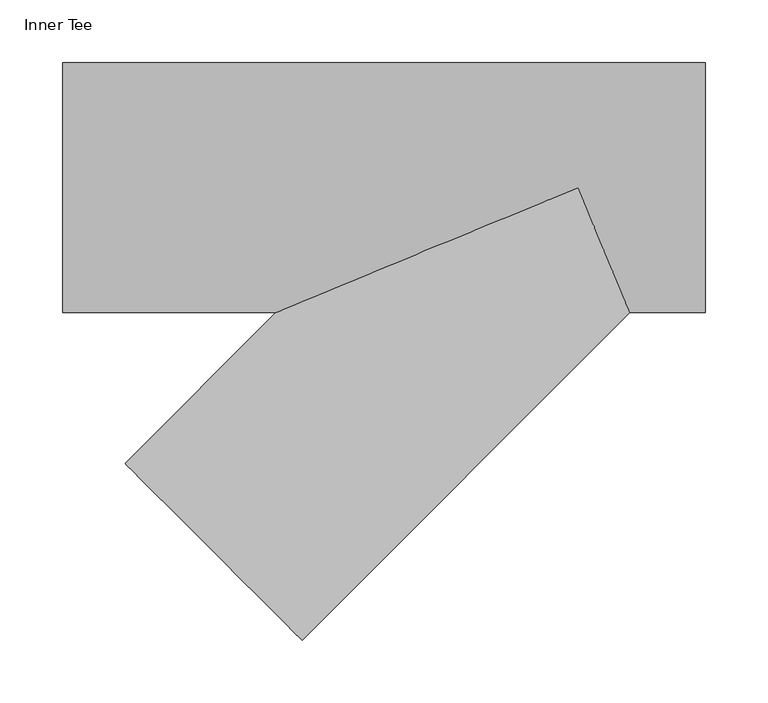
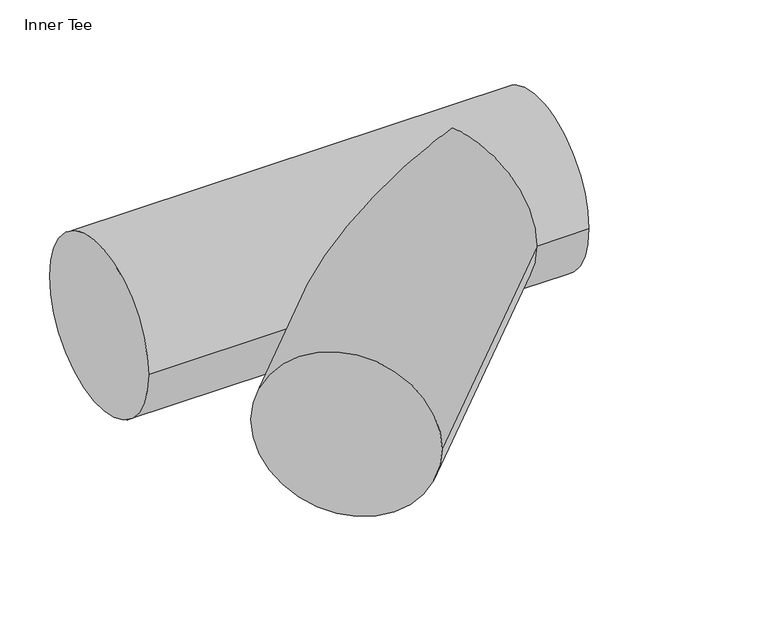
"""IFC4 building model written with IfcOpenShell, lengths in millimetres: pipe fitting geometry, CADS_Jeremias_InnerTee : Inner Tee."""

from ifc_helpers import new_model, si_unit, frame, origin, place, context, project, spatial, circle_curve, ellipse_curve, source, transform, mapped, element, save
from ifc_brep_helpers import plane_surface, cylinder_surface, advanced_brep


def inner_tee_3f265fad(model_context):
    return source(origin(), model_context, "Body", "AdvancedBrep", [
        advanced_brep(
        [(-411.7766953, -100.0, 0.0), (-411.7766953, 100.0, 0.0), (101.7766953, -100.0, 0.0), (101.7766953, 100.0, 0.0), (-241.4213562, -100.0, 0.0), (0.0, 0.0, 100.0), (41.4213562, -100.0, 0.0), (0.0, 0.0, -100.0), (-361.8807717, -220.4594155, 0.0), (-220.4594155, -361.8807717, 0.0)],
        [
            (0, 1, circle_curve(frame((-411.7766953, 0.0, 0.0), z_axis=(-1.0, 0.0, 0.0), x_axis=(0.0, 1.0, 0.0)), 100.0)),
            (1, 0, circle_curve(frame((-411.7766953, 0.0, 0.0), z_axis=(-1.0, 0.0, 0.0), x_axis=(0.0, 1.0, 0.0)), 100.0)),
            (2, 3, circle_curve(frame((101.7766953, 0.0, 0.0), z_axis=(1.0, 0.0, 0.0), x_axis=(0.0, 1.0, 0.0)), 100.0)),
            (3, 2, circle_curve(frame((101.7766953, 0.0, 0.0), z_axis=(1.0, 0.0, 0.0), x_axis=(0.0, 1.0, 0.0)), 100.0)),
            (0, 4),
            (4, 5, ellipse_curve(frame((0.0, 0.0, 0.0), z_axis=(-0.3826834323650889, 0.923879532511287, 0.0), x_axis=(-0.9238795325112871, -0.38268343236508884, 0.0)), 261.312593, 100.0)),
            (5, 6, ellipse_curve(frame((0.0, 0.0, 0.0), z_axis=(0.9238795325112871, 0.38268343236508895, 0.0), x_axis=(-0.3826834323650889, 0.923879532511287, 0.0)), 108.23922, 100.0)),
            (6, 2),
            (3, 1),
            (6, 7, ellipse_curve(frame((0.0, 0.0, 0.0), z_axis=(0.9238795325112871, 0.38268343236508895, 0.0), x_axis=(-0.3826834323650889, 0.923879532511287, 0.0)), 108.23922, 100.0)),
            (7, 4, ellipse_curve(frame((0.0, 0.0, 0.0), z_axis=(-0.3826834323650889, 0.923879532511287, 0.0), x_axis=(-0.9238795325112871, -0.38268343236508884, 0.0)), 261.312593, 100.0)),
            (8, 9, circle_curve(frame((-291.1700936, -291.1700936, 0.0), z_axis=(-0.7071067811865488, -0.7071067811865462, 0.0), x_axis=(0.7071067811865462, -0.7071067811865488, 0.0)), 100.0)),
            (9, 8, circle_curve(frame((-291.1700936, -291.1700936, 0.0), z_axis=(-0.7071067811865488, -0.7071067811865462, 0.0), x_axis=(0.7071067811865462, -0.7071067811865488, 0.0)), 100.0)),
            (9, 6),
            (4, 8),
        ],
        [
            plane_surface(frame((-411.7766953, 0.0, 0.0), z_axis=(-1.0, 0.0, 0.0), x_axis=(0.0, 0.0, 1.0))),
            plane_surface(frame((101.7766953, 0.0, 0.0), z_axis=(1.0, 0.0, 0.0), x_axis=(0.0, 0.0, 1.0))),
            cylinder_surface(frame((-411.7766953, 0.0, 0.0), z_axis=(-1.0, 0.0, 0.0), x_axis=(0.0, 1.0, 0.0)), 100.0),
            plane_surface(frame((-291.1700936, -291.1700936, 0.0), z_axis=(-0.7071067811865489, -0.7071067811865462, 0.0), x_axis=(0.0, 0.0, 1.0))),
            cylinder_surface(frame((0.0, 0.0, 0.0), z_axis=(0.7071067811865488, 0.7071067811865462, 0.0), x_axis=(0.7071067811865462, -0.7071067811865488, 0.0)), 100.0),
        ],
        [
            (0, [[1, 2]]),
            (1, [[3, 4]]),
            (2, [[-1, 5, 6, 7, 8, -4, 9]]),
            (2, [[-2, -9, -3, -8, 10, 11, -5]]),
            (3, [[12, 13]]),
            (4, [[-13, 14, -7, -6, 15]]),
            (4, [[-12, -15, -11, -10, -14]]),
        ],
    ),
    ])


if __name__ == "__main__":
    model = new_model("IFC4")
    model_context = context("Model", 3, world=origin())
    ifc_project = project(units=[si_unit("LENGTHUNIT", "METRE", prefix="MILLI")], contexts=[model_context])
    site = spatial("IfcSite", under=ifc_project)
    building = spatial("IfcBuilding", under=site)
    placement = place(None, origin())
    inner_tee_shape = inner_tee_3f265fad(model_context)
    element("IfcPipeFitting", 1, ObjectType="CADS_Jeremias_InnerTee : Inner Tee", at=placement, inside=building, context=model_context, shape_type="MappedRepresentation", body=[
        mapped(inner_tee_shape, transform((0.0, 0.0, 0.0), x_axis=(1.0, 0.0, 0.0), y_axis=(0.0, 1.0, 0.0), z_axis=(0.0, 0.0, 1.0))),
    ])
    save(model, "model.ifc")
